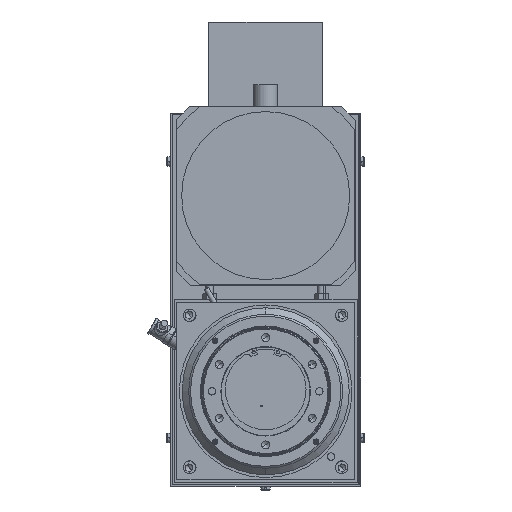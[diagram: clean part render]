
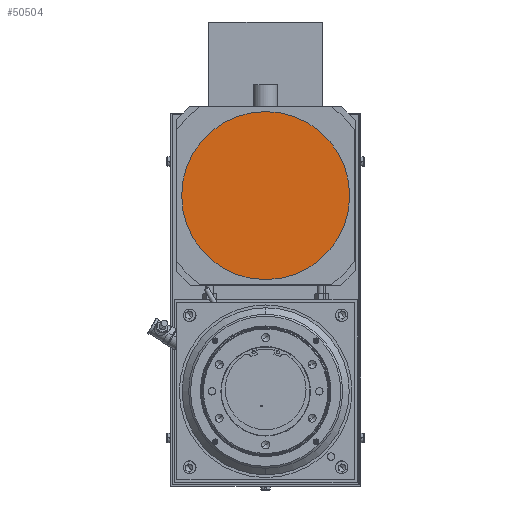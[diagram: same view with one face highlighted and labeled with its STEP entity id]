
A CAD part, front view. The second image highlights one B-rep face of the part: STEP entity #50504.
In plain terms, the highlighted planar face has unit normal (0, -1, 0).
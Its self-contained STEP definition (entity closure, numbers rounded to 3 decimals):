
#7235 = AXIS2_PLACEMENT_3D ( 'NONE', #58013, #29002, #62923 ) ;
#7437 = CARTESIAN_POINT ( 'NONE',  ( 46.595, -60.566, 300.234 ) ) ;
#8595 = ORIENTED_EDGE ( 'NONE', *, *, #46688, .T. ) ;
#10843 = CARTESIAN_POINT ( 'NONE',  ( 46.595, -60.566, 390.234 ) ) ;
#11873 = CARTESIAN_POINT ( 'NONE',  ( 46.595, -60.566, 210.234 ) ) ;
#12356 = DIRECTION ( 'NONE',  ( 0., 0., 1. ) ) ;
#16761 = EDGE_CURVE ( 'NONE', #30568, #23224, #35219, .T. ) ;
#16852 = DIRECTION ( 'NONE',  ( 0., 1., 0. ) ) ;
#23224 = VERTEX_POINT ( 'NONE', #11873 ) ;
#27110 = ORIENTED_EDGE ( 'NONE', *, *, #16761, .T. ) ;
#29002 = DIRECTION ( 'NONE',  ( 0., -1., 0. ) ) ;
#30568 = VERTEX_POINT ( 'NONE', #10843 ) ;
#35219 = CIRCLE ( 'NONE', #7235, 90. ) ;
#35924 = CARTESIAN_POINT ( 'NONE',  ( 141.595, -60.566, 205.234 ) ) ;
#41045 = FACE_OUTER_BOUND ( 'NONE', #55097, .T. ) ;
#41434 = DIRECTION ( 'NONE',  ( 0., -1., 0. ) ) ;
#42637 = AXIS2_PLACEMENT_3D ( 'NONE', #35924, #16852, #50769 ) ;
#45922 = PLANE ( 'NONE',  #42637 ) ;
#46688 = EDGE_CURVE ( 'NONE', #23224, #30568, #46959, .T. ) ;
#46959 = CIRCLE ( 'NONE', #58653, 90. ) ;
#50504 = ADVANCED_FACE ( 'NONE', ( #41045 ), #45922, .F. ) ;
#50769 = DIRECTION ( 'NONE',  ( 0., 0., -1. ) ) ;
#55097 = EDGE_LOOP ( 'NONE', ( #27110, #8595 ) ) ;
#58013 = CARTESIAN_POINT ( 'NONE',  ( 46.595, -60.566, 300.234 ) ) ;
#58653 = AXIS2_PLACEMENT_3D ( 'NONE', #7437, #41434, #12356 ) ;
#62923 = DIRECTION ( 'NONE',  ( 0., 0., 1. ) ) ;
